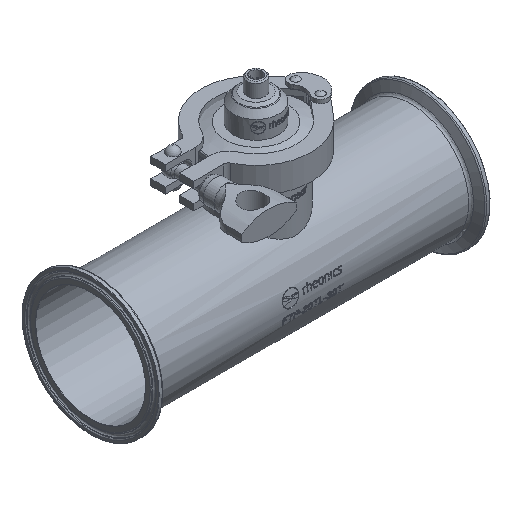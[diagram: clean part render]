
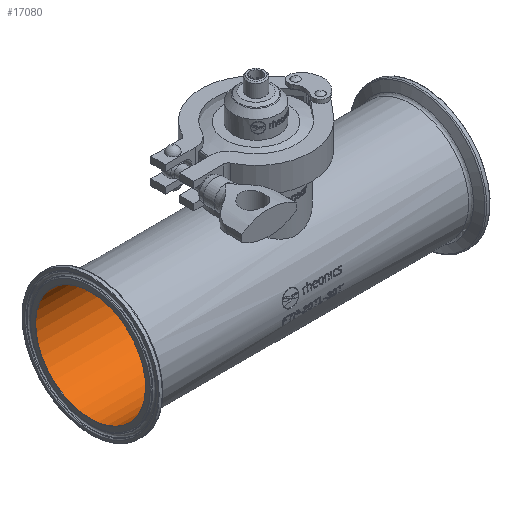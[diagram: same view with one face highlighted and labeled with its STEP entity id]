
A CAD part, isometric view. The second image highlights one B-rep face of the part: STEP entity #17080.
In plain terms, the highlighted cylindrical face has radius 36.45 mm (diameter 72.9 mm), a full revolution.
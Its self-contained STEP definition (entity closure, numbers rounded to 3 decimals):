
#2188=CIRCLE('',#17883,36.45);
#2189=CIRCLE('',#17884,36.45);
#2587=ORIENTED_EDGE('',*,*,#6251,.T.);
#2588=ORIENTED_EDGE('',*,*,#6252,.T.);
#2589=ORIENTED_EDGE('',*,*,#6253,.T.);
#6251=EDGE_CURVE('',#8083,#8083,#9350,.T.);
#6252=EDGE_CURVE('',#8084,#8084,#2188,.F.);
#6253=EDGE_CURVE('',#8085,#8085,#2189,.F.);
#8083=VERTEX_POINT('',#21359);
#8084=VERTEX_POINT('',#21361);
#8085=VERTEX_POINT('',#21363);
#9350=B_SPLINE_CURVE_WITH_KNOTS('',3,(#21312,#21313,#21314,#21315,#21316,
#21317,#21318,#21319,#21320,#21321,#21322,#21323,#21324,#21325,#21326,#21327,
#21328,#21329,#21330,#21331,#21332,#21333,#21334,#21335,#21336,#21337,#21338,
#21339,#21340,#21341,#21342,#21343,#21344,#21345,#21346,#21347,#21348,#21349,
#21350,#21351,#21352,#21353,#21354,#21355,#21356,#21357,#21358),
 .UNSPECIFIED.,.T.,.F.,(1,1,1,1,1,1,1,1,1,1,1,1,1,1,1,1,1,1,1,1,1,1,1,1,
1,1,1,1,1,1,1,1,1,1,1,1,1,1,1,1,1,1,1,1,1,1,1,1,1,1,1),(-0.01,
-0.005,-0.003,0.,0.003,
0.005,0.01,0.013,0.015,
0.02,0.025,0.03,0.035,
0.038,0.04,0.043,0.046,
0.051,0.056,0.061,0.063,
0.066,0.068,0.071,0.076,
0.081,0.084,0.086,0.091,
0.094,0.096,0.101,0.106,
0.111,0.114,0.116,0.121,
0.124,0.127,0.132,0.137,
0.142,0.144,0.147,0.152,
0.157,0.159,0.162,0.164,
0.167,0.172),.UNSPECIFIED.);
#10024=EDGE_LOOP('',(#2587));
#10025=EDGE_LOOP('',(#2588));
#10026=EDGE_LOOP('',(#2589));
#11033=FACE_BOUND('',#10024,.T.);
#11034=FACE_BOUND('',#10025,.T.);
#11035=FACE_BOUND('',#10026,.T.);
#12042=CYLINDRICAL_SURFACE('',#17882,36.45);
#17080=ADVANCED_FACE('',(#11033,#11034,#11035),#12042,.F.);
#17882=AXIS2_PLACEMENT_3D('',#21311,#18775,#18776);
#17883=AXIS2_PLACEMENT_3D('',#21360,#18777,#18778);
#17884=AXIS2_PLACEMENT_3D('',#21362,#18779,#18780);
#18775=DIRECTION('',(-1.,0.,0.));
#18776=DIRECTION('',(0.,0.,-1.));
#18777=DIRECTION('',(1.,0.,0.));
#18778=DIRECTION('',(0.,0.924,0.382));
#18779=DIRECTION('',(-1.,0.,0.));
#18780=DIRECTION('',(0.,0.102,0.995));
#21311=CARTESIAN_POINT('',(80.,0.,0.));
#21312=CARTESIAN_POINT('',(24.911,-2.564,36.389));
#21313=CARTESIAN_POINT('',(25.044,0.002,36.48));
#21314=CARTESIAN_POINT('',(24.912,2.555,36.389));
#21315=CARTESIAN_POINT('',(24.404,5.866,36.042));
#21316=CARTESIAN_POINT('',(23.389,9.092,35.358));
#21317=CARTESIAN_POINT('',(21.97,12.013,34.438));
#21318=CARTESIAN_POINT('',(20.271,14.786,33.372));
#21319=CARTESIAN_POINT('',(17.736,17.831,31.868));
#21320=CARTESIAN_POINT('',(14.045,20.861,29.949));
#21321=CARTESIAN_POINT('',(9.888,23.131,28.205));
#21322=CARTESIAN_POINT('',(5.918,24.39,27.093));
#21323=CARTESIAN_POINT('',(2.607,24.907,26.613));
#21324=CARTESIAN_POINT('',(0.029,25.044,26.484));
#21325=CARTESIAN_POINT('',(-2.493,24.918,26.603));
#21326=CARTESIAN_POINT('',(-5.843,24.41,27.075));
#21327=CARTESIAN_POINT('',(-9.792,23.175,28.17));
#21328=CARTESIAN_POINT('',(-14.025,20.875,29.939));
#21329=CARTESIAN_POINT('',(-17.065,18.39,31.517));
#21330=CARTESIAN_POINT('',(-19.225,16.041,32.752));
#21331=CARTESIAN_POINT('',(-20.659,14.145,33.616));
#21332=CARTESIAN_POINT('',(-21.92,12.103,34.407));
#21333=CARTESIAN_POINT('',(-23.37,9.143,35.346));
#21334=CARTESIAN_POINT('',(-24.633,5.179,36.197));
#21335=CARTESIAN_POINT('',(-25.084,0.898,36.508));
#21336=CARTESIAN_POINT('',(-24.921,-2.468,36.396));
#21337=CARTESIAN_POINT('',(-24.409,-5.853,36.046));
#21338=CARTESIAN_POINT('',(-23.416,-9.025,35.376));
#21339=CARTESIAN_POINT('',(-21.975,-12.003,34.442));
#21340=CARTESIAN_POINT('',(-20.297,-14.75,33.387));
#21341=CARTESIAN_POINT('',(-17.725,-17.841,31.863));
#21342=CARTESIAN_POINT('',(-14.088,-20.835,29.967));
#21343=CARTESIAN_POINT('',(-10.541,-22.77,28.482));
#21344=CARTESIAN_POINT('',(-7.499,-23.891,27.534));
#21345=CARTESIAN_POINT('',(-4.254,-24.736,26.779));
#21346=CARTESIAN_POINT('',(-0.884,-25.088,26.442));
#21347=CARTESIAN_POINT('',(2.554,-24.913,26.608));
#21348=CARTESIAN_POINT('',(5.87,-24.402,27.082));
#21349=CARTESIAN_POINT('',(9.843,-23.153,28.188));
#21350=CARTESIAN_POINT('',(14.045,-20.862,29.948));
#21351=CARTESIAN_POINT('',(17.112,-18.345,31.543));
#21352=CARTESIAN_POINT('',(19.249,-16.012,32.766));
#21353=CARTESIAN_POINT('',(21.191,-13.433,33.937));
#21354=CARTESIAN_POINT('',(23.121,-9.927,35.178));
#21355=CARTESIAN_POINT('',(24.399,-5.89,36.039));
#21356=CARTESIAN_POINT('',(24.911,-2.564,36.389));
#21357=CARTESIAN_POINT('',(25.044,0.002,36.48));
#21358=CARTESIAN_POINT('',(24.912,2.555,36.389));
#21359=CARTESIAN_POINT('',(25.,0.,36.45));
#21360=CARTESIAN_POINT('',(-109.85,0.,0.));
#21361=CARTESIAN_POINT('',(-109.85,33.688,13.918));
#21362=CARTESIAN_POINT('',(109.85,0.,0.));
#21363=CARTESIAN_POINT('',(109.85,3.729,36.259));
